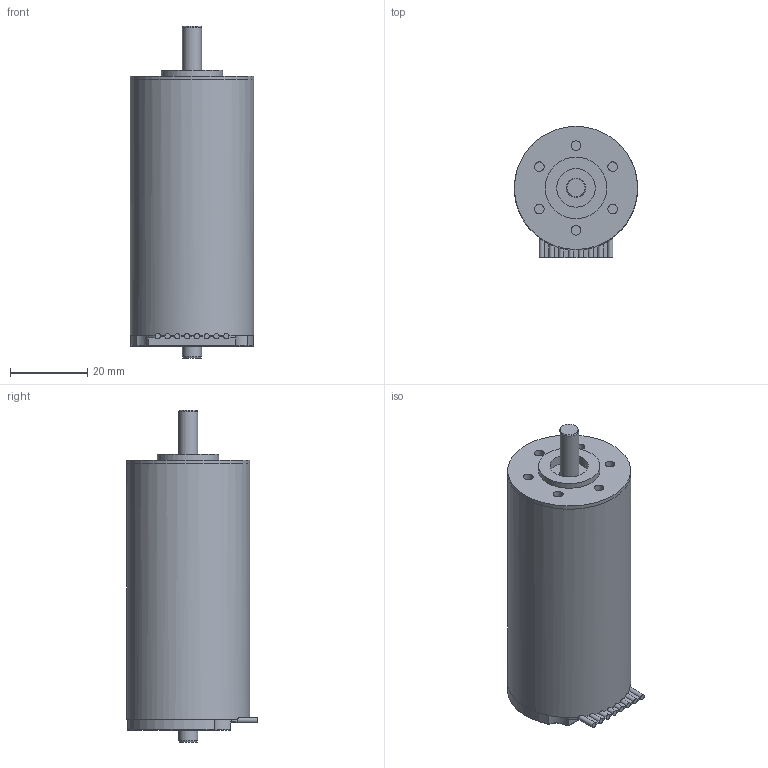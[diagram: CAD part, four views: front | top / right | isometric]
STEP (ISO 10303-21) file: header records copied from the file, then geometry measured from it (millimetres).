
FILE_DESCRIPTION(/* description */ (''),/* implementation_level */ '2;1');
FILE_NAME(/* name */ '3268.BX4.stp',/* time_stamp */ '2012-10-31T10:36:54+01:00',/* author */ ('DR. FRITZ FAULHABER GmbH & Co. KG'),/* organization */ ('DR. FRITZ FAULHABER GmbH & Co. KG'),/* preprocessor_version */ 'ST-DEVELOPER v11',/* originating_system */ 'SIEMENS PLM Software NX 7.5',/* authorisation */ '');
FILE_SCHEMA (('AUTOMOTIVE_DESIGN { 1 0 10303 214 1 1 1 1 }'));
Length unit declared in the file: millimetre
Products named in the file (1): 3268.BX4
Bounding box: 32 x 34 x 86.2 mm (x, y, z)
Volume: 56542.1 mm3; surface area: 9456.5 mm2
Topology: 1 solids, 1 shells, 118 faces, 297 edges, 194 vertices
Faces by surface type: plane 59, cylinder 51, torus 6, cone 2
Full cylindrical faces by diameter (mm): 2.5 x6, 5 x2, 10 x1, 11.1 x1, 16 x1, 31.99 x1, 32 x2
Entity records: 3821 total; most frequent: CARTESIAN_POINT 1017, DIRECTION 593, ORIENTED_EDGE 552, EDGE_CURVE 276, AXIS2_PLACEMENT_3D 244, VERTEX_POINT 190, EDGE_LOOP 148, CIRCLE 125
